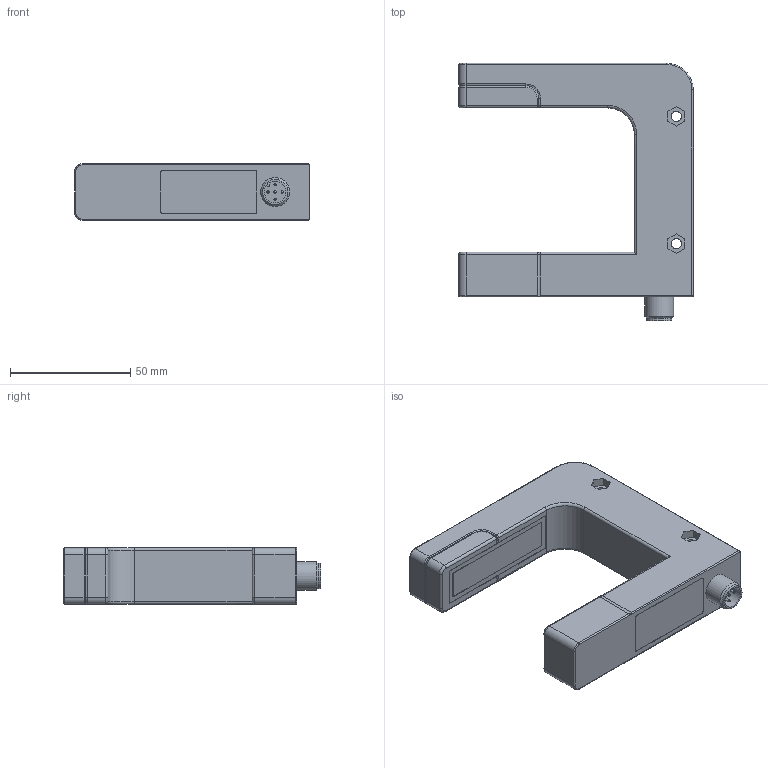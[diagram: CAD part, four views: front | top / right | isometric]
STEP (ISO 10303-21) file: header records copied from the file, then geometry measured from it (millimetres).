
FILE_DESCRIPTION((''),'2;1');
FILE_NAME('J:\Projekte\Kunststoff-Blechteile\Zeichnungen\Bibliothek Inventor\3D Solids\bks+\STP\bks+6_YY.stp','2012-05-24T13:00:57',('Oliver Liedtke'),(''),'Autodesk Inventor 2013','Autodesk Inventor 2013','');
FILE_SCHEMA(('AUTOMOTIVE_DESIGN { 1 0 10303 214 1 1 1 1 }'));
Length unit declared in the file: millimetre
Products named in the file (1): bks+6_YY
Bounding box: 97.51 x 107.06 x 23.5 mm (x, y, z)
Volume: 118115.2 mm3; surface area: 23670.9 mm2
Topology: 1 solids, 1 shells, 639 faces, 1664 edges, 1086 vertices
Faces by surface type: plane 332, bspline 182, cylinder 93, torus 26, sphere 5, cone 1
Full cylindrical faces by diameter (mm): 1 x5, 2.5 x3, 4.2 x2, 9 x1, 10.5 x1, 12 x2
Entity records: 23807 total; most frequent: CARTESIAN_POINT 8816, ORIENTED_EDGE 3266, DIRECTION 2386, EDGE_CURVE 1633, VERTEX_POINT 1075, VECTOR 1064, LINE 1064, EDGE_LOOP 722
